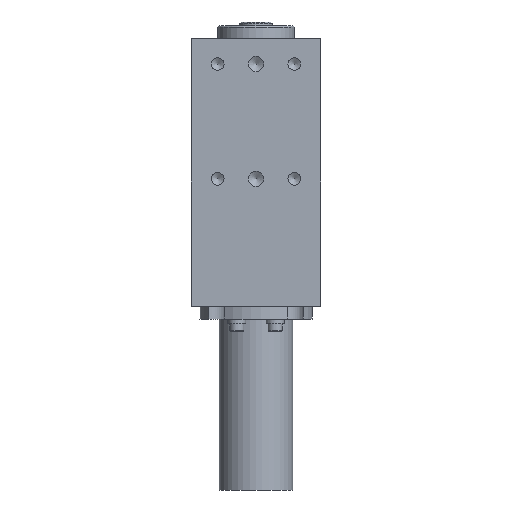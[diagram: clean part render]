
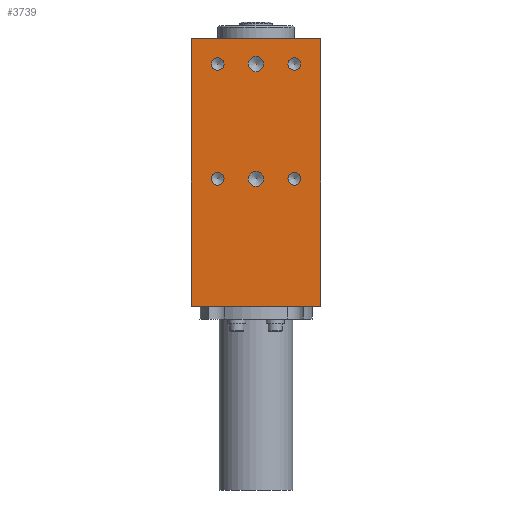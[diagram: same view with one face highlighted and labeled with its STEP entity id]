
A CAD part, front view. The second image highlights one B-rep face of the part: STEP entity #3739.
In plain terms, the highlighted planar face has unit normal (0, -1, 0) as drawn and (1, 0, 0) by its records, which use the part's own axes.
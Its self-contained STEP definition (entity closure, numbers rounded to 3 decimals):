
#279=FACE_BOUND('',#896,.T.);
#280=FACE_BOUND('',#897,.T.);
#281=FACE_BOUND('',#898,.T.);
#282=FACE_BOUND('',#899,.T.);
#283=FACE_BOUND('',#900,.T.);
#284=FACE_BOUND('',#901,.T.);
#378=PLANE('',#4288);
#644=FACE_OUTER_BOUND('',#895,.T.);
#895=EDGE_LOOP('',(#3376,#3377,#3378,#3379));
#896=EDGE_LOOP('',(#3380,#3381));
#897=EDGE_LOOP('',(#3382,#3383));
#898=EDGE_LOOP('',(#3384,#3385));
#899=EDGE_LOOP('',(#3386,#3387));
#900=EDGE_LOOP('',(#3388,#3389));
#901=EDGE_LOOP('',(#3390,#3391));
#1045=LINE('',#6053,#1289);
#1121=LINE('',#6500,#1365);
#1133=LINE('',#6522,#1377);
#1134=LINE('',#6524,#1378);
#1289=VECTOR('',#4947,10.);
#1365=VECTOR('',#5337,10.);
#1377=VECTOR('',#5369,10.);
#1378=VECTOR('',#5372,10.);
#1588=CIRCLE('',#4154,2.459);
#1589=CIRCLE('',#4155,2.459);
#1592=CIRCLE('',#4160,2.459);
#1593=CIRCLE('',#4161,2.459);
#1596=CIRCLE('',#4166,2.459);
#1597=CIRCLE('',#4167,2.459);
#1600=CIRCLE('',#4172,2.459);
#1601=CIRCLE('',#4173,2.459);
#1604=CIRCLE('',#4178,3.);
#1605=CIRCLE('',#4179,3.);
#1608=CIRCLE('',#4184,3.);
#1609=CIRCLE('',#4185,3.);
#1853=VERTEX_POINT('',#6050);
#1854=VERTEX_POINT('',#6052);
#1883=VERTEX_POINT('',#6128);
#1884=VERTEX_POINT('',#6129);
#1888=VERTEX_POINT('',#6141);
#1889=VERTEX_POINT('',#6142);
#1893=VERTEX_POINT('',#6154);
#1894=VERTEX_POINT('',#6155);
#1898=VERTEX_POINT('',#6167);
#1899=VERTEX_POINT('',#6168);
#1903=VERTEX_POINT('',#6180);
#1904=VERTEX_POINT('',#6181);
#1908=VERTEX_POINT('',#6193);
#1909=VERTEX_POINT('',#6194);
#1987=VERTEX_POINT('',#6497);
#1988=VERTEX_POINT('',#6499);
#2275=EDGE_CURVE('',#1853,#1854,#1045,.T.);
#2311=EDGE_CURVE('',#1883,#1884,#1588,.T.);
#2312=EDGE_CURVE('',#1884,#1883,#1589,.T.);
#2317=EDGE_CURVE('',#1888,#1889,#1592,.T.);
#2318=EDGE_CURVE('',#1889,#1888,#1593,.T.);
#2323=EDGE_CURVE('',#1893,#1894,#1596,.T.);
#2324=EDGE_CURVE('',#1894,#1893,#1597,.T.);
#2329=EDGE_CURVE('',#1898,#1899,#1600,.T.);
#2330=EDGE_CURVE('',#1899,#1898,#1601,.T.);
#2335=EDGE_CURVE('',#1903,#1904,#1604,.T.);
#2336=EDGE_CURVE('',#1904,#1903,#1605,.T.);
#2341=EDGE_CURVE('',#1908,#1909,#1608,.T.);
#2342=EDGE_CURVE('',#1909,#1908,#1609,.T.);
#2452=EDGE_CURVE('',#1987,#1988,#1121,.T.);
#2464=EDGE_CURVE('',#1854,#1987,#1133,.T.);
#2465=EDGE_CURVE('',#1853,#1988,#1134,.T.);
#3376=ORIENTED_EDGE('',*,*,#2275,.F.);
#3377=ORIENTED_EDGE('',*,*,#2465,.T.);
#3378=ORIENTED_EDGE('',*,*,#2452,.F.);
#3379=ORIENTED_EDGE('',*,*,#2464,.F.);
#3380=ORIENTED_EDGE('',*,*,#2311,.T.);
#3381=ORIENTED_EDGE('',*,*,#2312,.T.);
#3382=ORIENTED_EDGE('',*,*,#2317,.T.);
#3383=ORIENTED_EDGE('',*,*,#2318,.T.);
#3384=ORIENTED_EDGE('',*,*,#2323,.T.);
#3385=ORIENTED_EDGE('',*,*,#2324,.T.);
#3386=ORIENTED_EDGE('',*,*,#2329,.T.);
#3387=ORIENTED_EDGE('',*,*,#2330,.T.);
#3388=ORIENTED_EDGE('',*,*,#2335,.T.);
#3389=ORIENTED_EDGE('',*,*,#2336,.T.);
#3390=ORIENTED_EDGE('',*,*,#2341,.T.);
#3391=ORIENTED_EDGE('',*,*,#2342,.T.);
#3739=ADVANCED_FACE('',(#644,#279,#280,#281,#282,#283,#284),#378,.T.);
#4154=AXIS2_PLACEMENT_3D('',#6130,#5030,#5031);
#4155=AXIS2_PLACEMENT_3D('',#6131,#5032,#5033);
#4160=AXIS2_PLACEMENT_3D('',#6143,#5044,#5045);
#4161=AXIS2_PLACEMENT_3D('',#6144,#5046,#5047);
#4166=AXIS2_PLACEMENT_3D('',#6156,#5058,#5059);
#4167=AXIS2_PLACEMENT_3D('',#6157,#5060,#5061);
#4172=AXIS2_PLACEMENT_3D('',#6169,#5072,#5073);
#4173=AXIS2_PLACEMENT_3D('',#6170,#5074,#5075);
#4178=AXIS2_PLACEMENT_3D('',#6182,#5086,#5087);
#4179=AXIS2_PLACEMENT_3D('',#6183,#5088,#5089);
#4184=AXIS2_PLACEMENT_3D('',#6195,#5100,#5101);
#4185=AXIS2_PLACEMENT_3D('',#6196,#5102,#5103);
#4288=AXIS2_PLACEMENT_3D('',#6528,#5378,#5379);
#4947=DIRECTION('',(0.,-1.,0.));
#5030=DIRECTION('center_axis',(-1.,0.,0.));
#5031=DIRECTION('ref_axis',(0.,0.,-1.));
#5032=DIRECTION('center_axis',(-1.,0.,0.));
#5033=DIRECTION('ref_axis',(0.,0.,-1.));
#5044=DIRECTION('center_axis',(-1.,0.,0.));
#5045=DIRECTION('ref_axis',(0.,0.,-1.));
#5046=DIRECTION('center_axis',(-1.,0.,0.));
#5047=DIRECTION('ref_axis',(0.,0.,-1.));
#5058=DIRECTION('center_axis',(-1.,0.,0.));
#5059=DIRECTION('ref_axis',(0.,0.,-1.));
#5060=DIRECTION('center_axis',(-1.,0.,0.));
#5061=DIRECTION('ref_axis',(0.,0.,-1.));
#5072=DIRECTION('center_axis',(-1.,0.,0.));
#5073=DIRECTION('ref_axis',(0.,0.,-1.));
#5074=DIRECTION('center_axis',(-1.,0.,0.));
#5075=DIRECTION('ref_axis',(0.,0.,-1.));
#5086=DIRECTION('center_axis',(-1.,0.,0.));
#5087=DIRECTION('ref_axis',(0.,0.,-1.));
#5088=DIRECTION('center_axis',(-1.,0.,0.));
#5089=DIRECTION('ref_axis',(0.,0.,-1.));
#5100=DIRECTION('center_axis',(-1.,0.,0.));
#5101=DIRECTION('ref_axis',(0.,0.,-1.));
#5102=DIRECTION('center_axis',(-1.,0.,0.));
#5103=DIRECTION('ref_axis',(0.,0.,-1.));
#5337=DIRECTION('',(0.,1.,0.));
#5369=DIRECTION('',(0.,0.,1.));
#5372=DIRECTION('',(0.,0.,1.));
#5378=DIRECTION('center_axis',(1.,0.,0.));
#5379=DIRECTION('ref_axis',(0.,1.,0.));
#6050=CARTESIAN_POINT('',(37.,25.4,0.));
#6052=CARTESIAN_POINT('',(37.,-25.4,0.));
#6053=CARTESIAN_POINT('',(37.,25.4,0.));
#6128=CARTESIAN_POINT('',(37.,15.,47.542));
#6129=CARTESIAN_POINT('',(37.,15.,52.459));
#6130=CARTESIAN_POINT('Origin',(37.,15.,50.));
#6131=CARTESIAN_POINT('Origin',(37.,15.,50.));
#6141=CARTESIAN_POINT('',(37.,-15.,92.542));
#6142=CARTESIAN_POINT('',(37.,-15.,97.459));
#6143=CARTESIAN_POINT('Origin',(37.,-15.,95.));
#6144=CARTESIAN_POINT('Origin',(37.,-15.,95.));
#6154=CARTESIAN_POINT('',(37.,-15.,47.542));
#6155=CARTESIAN_POINT('',(37.,-15.,52.459));
#6156=CARTESIAN_POINT('Origin',(37.,-15.,50.));
#6157=CARTESIAN_POINT('Origin',(37.,-15.,50.));
#6167=CARTESIAN_POINT('',(37.,15.,92.542));
#6168=CARTESIAN_POINT('',(37.,15.,97.459));
#6169=CARTESIAN_POINT('Origin',(37.,15.,95.));
#6170=CARTESIAN_POINT('Origin',(37.,15.,95.));
#6180=CARTESIAN_POINT('',(37.,0.,92.));
#6181=CARTESIAN_POINT('',(37.,0.,98.));
#6182=CARTESIAN_POINT('Origin',(37.,0.,95.));
#6183=CARTESIAN_POINT('Origin',(37.,0.,95.));
#6193=CARTESIAN_POINT('',(37.,0.,47.));
#6194=CARTESIAN_POINT('',(37.,0.,53.));
#6195=CARTESIAN_POINT('Origin',(37.,0.,50.));
#6196=CARTESIAN_POINT('Origin',(37.,0.,50.));
#6497=CARTESIAN_POINT('',(37.,-25.4,105.));
#6499=CARTESIAN_POINT('',(37.,25.4,105.));
#6500=CARTESIAN_POINT('',(37.,25.4,105.));
#6522=CARTESIAN_POINT('',(37.,-25.4,0.));
#6524=CARTESIAN_POINT('',(37.,25.4,0.));
#6528=CARTESIAN_POINT('Origin',(37.,-25.4,0.));
